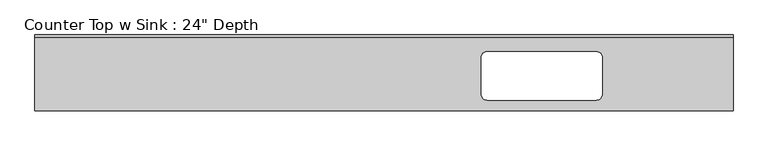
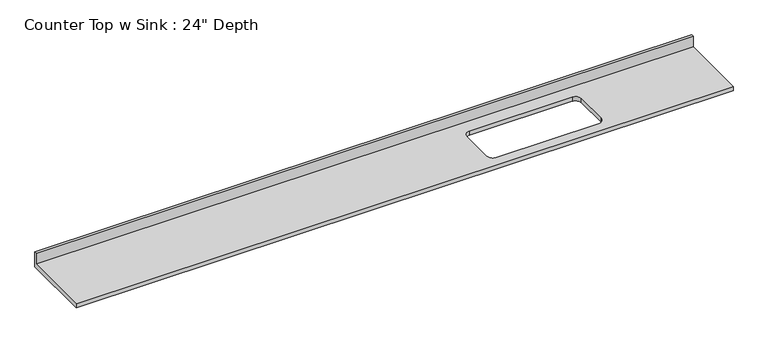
"""IFC4 building model written with IfcOpenShell, lengths in millimetres: furniture geometry."""

from ifc_helpers import new_model, si_unit, frame, origin, place, context, project, spatial, polyline, circle_curve, source, transform, mapped, element, save
from ifc_brep_helpers import plane_surface, revolved_surface, advanced_brep


def furniture_fce4e3d3(model_context):
    return source(origin(), model_context, "Body", "AdvancedBrep", [
        advanced_brep(
        [(-1200.4622951, -635.0, 914.4), (4647.8877049, -635.0, 914.4), (4647.8877049, -19.05, 914.4), (-1200.4622951, -19.05, 914.4), (2587.6770418, -139.7, 914.4), (3502.0770418, -139.7, 914.4), (3552.8770418, -190.5, 914.4), (3552.8770418, -495.3, 914.4), (3502.0770418, -546.1, 914.4), (2587.6770418, -546.1, 914.4), (2536.8770418, -495.3, 914.4), (2536.8770418, -190.5, 914.4), (4647.8877049, 0.0, 876.3), (4647.8877049, -635.0, 876.3), (-1200.4622951, -635.0, 876.3), (-1200.4622951, 0.0, 876.3), (3502.0770418, -139.7, 876.3), (2587.6770418, -139.7, 876.3), (2536.8770418, -190.5, 876.3), (2536.8770418, -495.3, 876.3), (2587.6770418, -546.1, 876.3), (3502.0770418, -546.1, 876.3), (3552.8770418, -495.3, 876.3), (3552.8770418, -190.5, 876.3), (-1200.4622951, 0.0, 1016.0), (4647.8877049, 0.0, 1016.0), (-1200.4622951, -19.05, 1016.0), (4647.8877049, -19.05, 1016.0)],
        [
            (0, 1),
            (1, 2),
            (2, 3),
            (3, 0),
            (4, 5),
            (5, 6, circle_curve(frame((3502.0770418, -190.5, 914.4), z_axis=(0.0, 0.0, -1.0), x_axis=(1.0, 0.0, 0.0)), 50.8)),
            (6, 7),
            (7, 8, circle_curve(frame((3502.0770418, -495.3, 914.4), z_axis=(0.0, 0.0, -1.0), x_axis=(1.0, 0.0, 0.0)), 50.8)),
            (8, 9),
            (9, 10, circle_curve(frame((2587.6770418, -495.3, 914.4), z_axis=(0.0, 0.0, -1.0), x_axis=(1.0, 0.0, 0.0)), 50.8)),
            (10, 11),
            (11, 4, circle_curve(frame((2587.6770418, -190.5, 914.4), z_axis=(0.0, 0.0, -1.0), x_axis=(1.0, 0.0, 0.0)), 50.8)),
            (12, 13),
            (13, 14),
            (14, 15),
            (15, 12),
            (16, 17),
            (17, 18, circle_curve(frame((2587.6770418, -190.5, 876.3), z_axis=(0.0, 0.0, 1.0), x_axis=(1.0, 0.0, 0.0)), 50.8)),
            (18, 19),
            (19, 20, circle_curve(frame((2587.6770418, -495.3, 876.3), z_axis=(0.0, 0.0, 1.0), x_axis=(1.0, 0.0, 0.0)), 50.8)),
            (20, 21),
            (21, 22, circle_curve(frame((3502.0770418, -495.3, 876.3), z_axis=(0.0, 0.0, 1.0), x_axis=(1.0, 0.0, 0.0)), 50.8)),
            (22, 23),
            (23, 16, circle_curve(frame((3502.0770418, -190.5, 876.3), z_axis=(0.0, 0.0, 1.0), x_axis=(1.0, 0.0, 0.0)), 50.8)),
            (15, 24),
            (24, 25),
            (25, 12),
            (14, 0),
            (3, 26),
            (26, 24),
            (13, 1),
            (25, 27),
            (27, 2),
            (4, 17),
            (16, 5),
            (18, 11),
            (10, 19),
            (20, 9),
            (8, 21),
            (22, 7),
            (6, 23),
            (26, 27),
        ],
        [
            plane_surface(frame((-1200.4622951, 0.0, 914.4), z_axis=(0.0, 0.0, 1.0), x_axis=(-1.0, 0.0, 0.0))),
            plane_surface(frame((-1200.4622951, 0.0, 876.3), z_axis=(0.0, 0.0, -1.0), x_axis=(1.0, 0.0, 0.0))),
            plane_surface(frame((4647.8877049, 0.0, 914.4), z_axis=(0.0, 1.0, 0.0), x_axis=(0.0, 0.0, -1.0))),
            plane_surface(frame((-1200.4622951, 0.0, 914.4), z_axis=(-1.0, 0.0, 0.0), x_axis=(0.0, 0.0, -1.0))),
            plane_surface(frame((-1200.4622951, -635.0, 914.4), z_axis=(0.0, -1.0, 0.0), x_axis=(0.0, 0.0, -1.0))),
            plane_surface(frame((4647.8877049, -635.0, 914.4), z_axis=(1.0, 0.0, 0.0), x_axis=(0.0, 0.0, -1.0))),
            plane_surface(frame((3502.0770418, -139.7, 914.4), z_axis=(0.0, -1.0, 0.0), x_axis=(0.0, 0.0, -1.0))),
            plane_surface(frame((2536.8770418, -190.5, 914.4), z_axis=(1.0, 0.0, 0.0), x_axis=(0.0, 0.0, -1.0))),
            plane_surface(frame((2587.6770418, -546.1, 914.4), z_axis=(0.0, 1.0, 0.0), x_axis=(0.0, 0.0, -1.0))),
            plane_surface(frame((3552.8770418, -495.3, 914.4), z_axis=(-1.0, 0.0, 0.0), x_axis=(0.0, 0.0, -1.0))),
            revolved_surface(polyline([(2638.4770418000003, -190.5, 914.4), (2638.4770418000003, -190.5, 876.3)]), (2587.6770418, -190.5, 876.3), (0.0, 0.0, 1.0)),
            revolved_surface(polyline([(3552.8770418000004, -495.3, 914.4), (3552.8770418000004, -495.3, 876.3)]), (3502.0770418, -495.3, 876.3), (0.0, 0.0, 1.0)),
            revolved_surface(polyline([(3552.8770418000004, -190.5, 914.4), (3552.8770418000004, -190.5, 876.3)]), (3502.0770418, -190.5, 876.3), (0.0, 0.0, 1.0)),
            revolved_surface(polyline([(2638.4770418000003, -495.3, 914.4), (2638.4770418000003, -495.3, 876.3)]), (2587.6770418, -495.3, 876.3), (0.0, 0.0, 1.0)),
            plane_surface(frame((-1200.4622951, 0.0, 1016.0), z_axis=(0.0, 0.0, 1.0), x_axis=(0.0, -1.0, 0.0))),
            plane_surface(frame((-1200.4622951, -19.05, 1016.0), z_axis=(0.0, -1.0, 0.0), x_axis=(0.0, 0.0, -1.0))),
        ],
        [
            (0, [[1, 2, 3, 4], [5, 6, 7, 8, 9, 10, 11, 12]]),
            (1, [[13, 14, 15, 16], [17, 18, 19, 20, 21, 22, 23, 24]]),
            (2, [[-16, 25, 26, 27]]),
            (3, [[-15, 28, -4, 29, 30, -25]]),
            (4, [[-1, -28, -14, 31]]),
            (5, [[-13, -27, 32, 33, -2, -31]]),
            (6, [[34, -17, 35, -5]]),
            (7, [[36, -11, 37, -19]]),
            (8, [[38, -9, 39, -21]]),
            (9, [[40, -7, 41, -23]]),
            (10, [[-34, -12, -36, -18]]),
            (11, [[-39, -8, -40, -22]]),
            (12, [[-35, -24, -41, -6]]),
            (13, [[-37, -10, -38, -20]]),
            (14, [[-30, 42, -32, -26]]),
            (15, [[-42, -29, -3, -33]]),
        ],
    ),
    ])


if __name__ == "__main__":
    model = new_model("IFC4")
    model_context = context("Model", 3, world=origin())
    ifc_project = project(units=[si_unit("LENGTHUNIT", "METRE", prefix="MILLI")], contexts=[model_context])
    site = spatial("IfcSite", under=ifc_project)
    building = spatial("IfcBuilding", under=site)
    placement = place(None, origin())
    furniture_shape = furniture_fce4e3d3(model_context)
    element("IfcFurniture", 1, ObjectType="Counter Top w Sink : 24\" Depth", at=placement, inside=building, context=model_context, shape_type="MappedRepresentation", body=[
        mapped(furniture_shape, transform((0.0, 0.0, 0.0), x_axis=(1.0, 0.0, 0.0), y_axis=(0.0, 1.0, 0.0), z_axis=(0.0, 0.0, 1.0))),
    ])
    save(model, "model.ifc")
